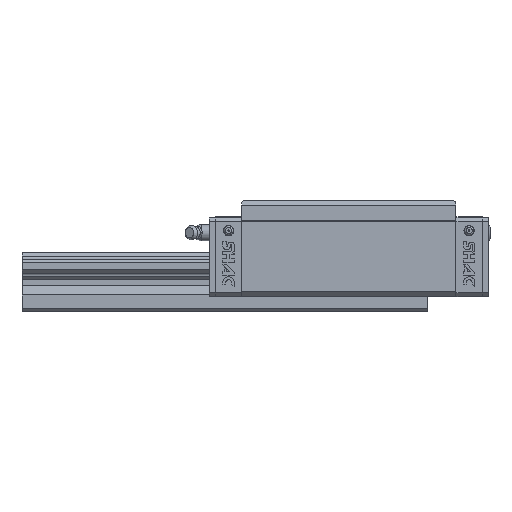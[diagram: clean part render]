
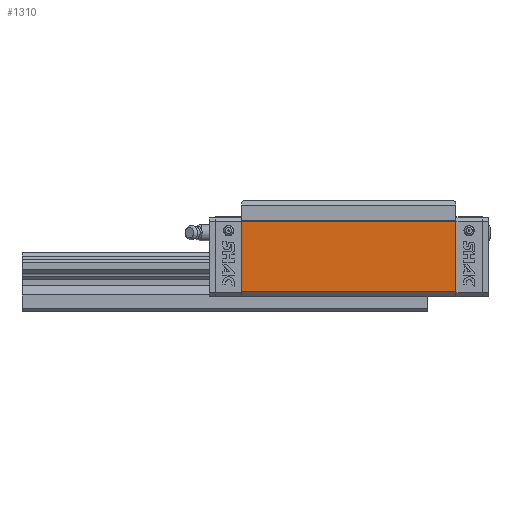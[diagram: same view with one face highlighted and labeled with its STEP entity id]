
A CAD part, top view. The second image highlights one B-rep face of the part: STEP entity #1310.
In plain terms, the highlighted planar face has unit normal (0, 0, 1).
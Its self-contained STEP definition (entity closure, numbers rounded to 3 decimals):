
#1310 = ADVANCED_FACE( '', ( #2707 ), #2708, .F. );
#2707 = FACE_OUTER_BOUND( '', #4211, .T. );
#2708 = PLANE( '', #4212 );
#4211 = EDGE_LOOP( '', ( #7645, #7646, #7647, #7648 ) );
#4212 = AXIS2_PLACEMENT_3D( '', #7649, #7650, #7651 );
#7645 = ORIENTED_EDGE( '', *, *, #9894, .T. );
#7646 = ORIENTED_EDGE( '', *, *, #10318, .F. );
#7647 = ORIENTED_EDGE( '', *, *, #9801, .F. );
#7648 = ORIENTED_EDGE( '', *, *, #9295, .T. );
#7649 = CARTESIAN_POINT( '', ( 52.9, 44.26, 34.459 ) );
#7650 = DIRECTION( '', ( 0., 0., -1. ) );
#7651 = DIRECTION( '', ( -1., 0., 0. ) );
#9295 = EDGE_CURVE( '', #11224, #11222, #11225, .T. );
#9801 = EDGE_CURVE( '', #11224, #12024, #12025, .T. );
#9894 = EDGE_CURVE( '', #11222, #12167, #12169, .T. );
#10318 = EDGE_CURVE( '', #12024, #12167, #12735, .T. );
#11222 = VERTEX_POINT( '', #13922 );
#11224 = VERTEX_POINT( '', #13925 );
#11225 = LINE( '', #13926, #13927 );
#12024 = VERTEX_POINT( '', #15102 );
#12025 = LINE( '', #15103, #15104 );
#12167 = VERTEX_POINT( '', #15309 );
#12169 = LINE( '', #15312, #15313 );
#12735 = LINE( '', #16193, #16194 );
#13922 = CARTESIAN_POINT( '', ( -52.9, 44.26, 34.459 ) );
#13925 = CARTESIAN_POINT( '', ( 52.9, 44.26, 34.459 ) );
#13926 = CARTESIAN_POINT( '', ( 52.9, 44.26, 34.459 ) );
#13927 = VECTOR( '', #16988, 1000. );
#15102 = CARTESIAN_POINT( '', ( 52.9, 9.78, 34.459 ) );
#15103 = CARTESIAN_POINT( '', ( 52.9, 44.26, 34.459 ) );
#15104 = VECTOR( '', #17465, 1000. );
#15309 = CARTESIAN_POINT( '', ( -52.9, 9.78, 34.459 ) );
#15312 = CARTESIAN_POINT( '', ( -52.9, 44.26, 34.459 ) );
#15313 = VECTOR( '', #17590, 1000. );
#16193 = CARTESIAN_POINT( '', ( 52.9, 9.78, 34.459 ) );
#16194 = VECTOR( '', #17956, 1000. );
#16988 = DIRECTION( '', ( -1., 0., 0. ) );
#17465 = DIRECTION( '', ( 0., -1., 0. ) );
#17590 = DIRECTION( '', ( 0., -1., 0. ) );
#17956 = DIRECTION( '', ( -1., 0., 0. ) );
